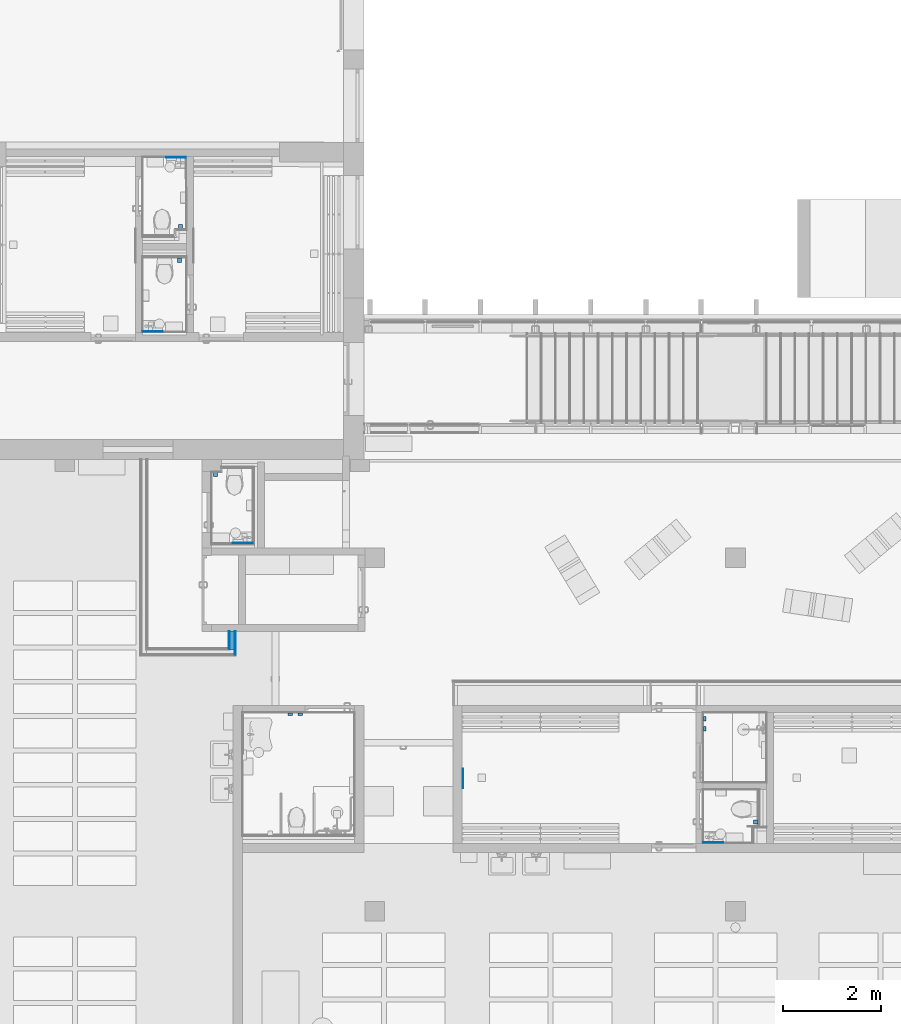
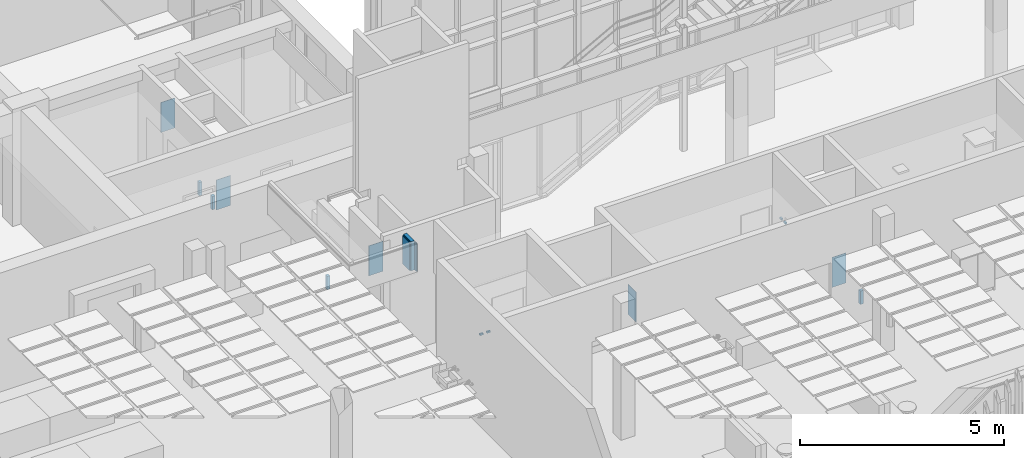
# One storey, part 216 of 301: 13 discrete accessories, 5 building element parts, 1 element without a shape of its own.
"""IFC2X3 building model written with IfcOpenShell, lengths in millimetres."""

from ifc_helpers import new_model, entity, si_unit, converted_unit, derived_unit, money_unit, direction, frame, origin_with_axes, place, context, subcontext, project, spatial, faceted_brep, material, type_object, element, aggregate, save


model = new_model("IFC2X3")

# Units and contexts
model_context = context("Model", 3, precision=0.01, world=origin_with_axes(), true_north=direction((0.0, 1.0)))
body_context = subcontext(model_context, "Body", "Model", "MODEL_VIEW")
ifc_project = project(units=[si_unit("LENGTHUNIT", "METRE", prefix="MILLI"), si_unit("AREAUNIT", "SQUARE_METRE"), si_unit("VOLUMEUNIT", "CUBIC_METRE"), converted_unit("PLANEANGLEUNIT", "DEGREE", entity("IfcPlaneAngleMeasure", 0.0174532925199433), si_unit("PLANEANGLEUNIT", "RADIAN"), dimensions=[0, 0, 0, 0, 0, 0, 0]), money_unit("EUR"), converted_unit("TIMEUNIT", "Year", entity("IfcTimeMeasure", 31557600.0), si_unit("TIMEUNIT", "SECOND"), dimensions=[0, 0, 1, 0, 0, 0, 0]), si_unit("MASSUNIT", "GRAM", prefix="KILO"), si_unit("THERMODYNAMICTEMPERATUREUNIT", "DEGREE_CELSIUS"), si_unit("LUMINOUSINTENSITYUNIT", "LUMEN"), si_unit("ENERGYUNIT", "JOULE", prefix="MEGA"), derived_unit("THERMALCONDUCTANCEUNIT", [(si_unit("POWERUNIT", "WATT"), 1), (si_unit("LENGTHUNIT", "METRE"), -1), (si_unit("THERMODYNAMICTEMPERATUREUNIT", "KELVIN"), -1)]), derived_unit("SPECIFICHEATCAPACITYUNIT", [(si_unit("ENERGYUNIT", "JOULE"), 1), (si_unit("MASSUNIT", "GRAM", prefix="KILO"), -1), (si_unit("THERMODYNAMICTEMPERATUREUNIT", "KELVIN"), -1)]), derived_unit("MASSDENSITYUNIT", [(si_unit("MASSUNIT", "GRAM", prefix="KILO"), 1), (si_unit("VOLUMEUNIT", "CUBIC_METRE"), -1)])], contexts=[model_context])

# Site, building, storey
site_placement = place(None, frame((0.0, 0.0, 8650.0), z_axis=(0.0, 0.0, 1.0), x_axis=(1.0, 0.0, 0.0)))
site = spatial("IfcSite", under=ifc_project, at=site_placement, Name="43301:001:0844", CompositionType="ELEMENT")
building_placement = place(site_placement, origin_with_axes())
building = spatial("IfcBuilding", under=site, at=building_placement, Name="Kuressaare Ametikooli tuulikute mehaanikute õppekorpus", CompositionType="ELEMENT")
storey_placement = place(building_placement, origin_with_axes())
storey = spatial("IfcBuildingStorey", under=building, at=storey_placement, Name="1.korrus", CompositionType="ELEMENT", Elevation=0.0)

# Discrete accessories
ifc_material_1 = material(Name="GENEERILINE - SISEMINE VOODER")
discrete_accessory_type_1 = type_object("IfcDiscreteAccessoryType", Name="GENEERILINE - SISEMINE VOODER 10")
discrete_accessory_1_placement = place(storey_placement, frame((105665.5117748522, 19479.54246716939, 1200.0), z_axis=(0.0, 0.0, 1.0), x_axis=(0.0, -1.0, 0.0)))
element("IfcDiscreteAccessory", 1, at=discrete_accessory_1_placement, inside=storey, type_object=discrete_accessory_type_1, material=ifc_material_1, Name="P1", context=body_context, shape_type="Brep", body=[
    faceted_brep([(0.0, 0.0, 0.0), (400.0000000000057, 0.0, 0.0), (400.0000000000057, -10.00000000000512, 0.0), (0.0, -10.00000000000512, 0.0), (0.0, 0.0, 900.0000000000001), (400.0000000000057, 0.0, 900.0000000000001), (400.0000000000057, -10.00000000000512, 900.0000000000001), (0.0, -10.00000000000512, 900.0000000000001)], [[[0, 1, 2, 3]], [[4, 5, 1, 0]], [[2, 1, 5, 6]], [[3, 2, 6, 7]], [[4, 0, 3, 7]], [[7, 6, 5, 4]]]),
])
discrete_accessory_2_placement = place(storey_placement, frame((101373.6550356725, 24086.06969685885, 1200.0), z_axis=(0.0, 0.0, 1.0), x_axis=(-0.9999999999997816, -6.608501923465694e-07, 0.0)))
element("IfcDiscreteAccessory", 2, at=discrete_accessory_2_placement, inside=storey, type_object=discrete_accessory_type_1, material=ifc_material_1, Name="P1", context=body_context, shape_type="Brep", body=[
    faceted_brep([(0.0, 0.0, 900.0000000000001), (400.0000000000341, 0.0, 900.0000000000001), (400.0000000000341, 9.99999999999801, 900.0000000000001), (0.0, 9.99999999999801, 900.0000000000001), (0.0, 0.0, 0.0), (400.0000000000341, 0.0, 0.0), (400.0000000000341, 9.99999999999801, 0.0), (0.0, 9.99999999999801, 0.0)], [[[0, 1, 2, 3]], [[4, 5, 1, 0]], [[2, 1, 5, 6]], [[3, 2, 6, 7]], [[4, 0, 3, 7]], [[7, 6, 5, 4]]]),
])
discrete_accessory_3_placement = place(storey_placement, frame((99139.5422787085, 28393.06905086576, 1200.0), z_axis=(0.0, 0.0, 1.0), x_axis=(0.9999999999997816, -6.608501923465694e-07, 0.0)))
element("IfcDiscreteAccessory", 3, at=discrete_accessory_3_placement, inside=storey, type_object=discrete_accessory_type_1, material=ifc_material_1, Name="P1", context=body_context, shape_type="Brep", body=[
    faceted_brep([(0.0, 0.0, 0.0), (400.0000000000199, 0.0, 0.0), (400.0000000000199, -10.00000000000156, 0.0), (0.0, -10.00000000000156, 0.0), (0.0, 0.0, 900.0000000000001), (400.0000000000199, 0.0, 900.0000000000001), (400.0000000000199, -10.00000000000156, 900.0000000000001), (0.0, -10.00000000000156, 900.0000000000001)], [[[0, 1, 2, 3]], [[4, 5, 1, 0]], [[2, 1, 5, 6]], [[3, 2, 6, 7]], [[4, 0, 3, 7]], [[7, 6, 5, 4]]]),
])
discrete_accessory_4_placement = place(storey_placement, frame((100015.9331995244, 31934.01051328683, 1200.0), z_axis=(0.0, 0.0, 1.0), x_axis=(-0.9999999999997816, 6.608503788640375e-07, 0.0)))
element("IfcDiscreteAccessory", 4, at=discrete_accessory_4_placement, inside=storey, type_object=discrete_accessory_type_1, material=ifc_material_1, Name="P1", context=body_context, shape_type="Brep", body=[
    faceted_brep([(0.0, 0.0, 0.0), (400.0000000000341, 0.0, 0.0), (400.0000000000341, -9.99999999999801, 0.0), (0.0, -9.99999999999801, 0.0), (0.0, 0.0, 900.0000000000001), (400.0000000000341, 0.0, 900.0000000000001), (400.0000000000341, -9.99999999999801, 900.0000000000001), (0.0, -9.99999999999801, 900.0000000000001)], [[[0, 1, 2, 3]], [[4, 5, 1, 0]], [[2, 1, 5, 6]], [[3, 2, 6, 7]], [[4, 0, 3, 7]], [[7, 6, 5, 4]]]),
])
discrete_accessory_5_placement = place(storey_placement, frame((110565.5119871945, 17974.83644387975, 1200.0), z_axis=(0.0, 0.0, 1.0), x_axis=(1.0, 0.0, 0.0)))
element("IfcDiscreteAccessory", 5, at=discrete_accessory_5_placement, inside=storey, type_object=discrete_accessory_type_1, material=ifc_material_1, Name="P1", context=body_context, shape_type="Brep", body=[
    faceted_brep([(0.0, 0.0, 0.0), (400.0000000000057, 0.0, 0.0), (400.0000000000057, -10.00000000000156, 0.0), (0.0, -10.00000000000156, 0.0), (0.0, 0.0, 900.0000000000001), (400.0000000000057, 0.0, 900.0000000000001), (400.0000000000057, -10.00000000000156, 900.0000000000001), (0.0, -10.00000000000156, 900.0000000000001)], [[[0, 1, 2, 3]], [[4, 5, 1, 0]], [[2, 1, 5, 6]], [[3, 2, 6, 7]], [[4, 0, 3, 7]], [[7, 6, 5, 4]]]),
])
ifc_material_2 = material(Name="GENEERILINE - KONSTRUKTRIOON")
discrete_accessory_type_2 = type_object("IfcDiscreteAccessoryType", Name="GENEERILINE - KONSTRUKTRIOON 400")
discrete_accessory_6_placement = place(storey_placement, frame((100656.4859065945, 25434.0597091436, 99.99999999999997), z_axis=(0.0, 0.0, 1.0), x_axis=(1.0, 0.0, 0.0)))
element("IfcDiscreteAccessory", 6, at=discrete_accessory_6_placement, inside=storey, type_object=discrete_accessory_type_2, material=ifc_material_2, Name="WCH", context=body_context, shape_type="Brep", body=[
    faceted_brep([(0.0, 0.0, 400.0), (0.0, 0.0, 0.0), (0.0, 88.99999999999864, 0.0), (0.0, 88.99999999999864, 400.0), (-81.00000000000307, 0.0, 400.0), (-81.00000000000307, 0.0, 0.0), (-81.00000000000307, 88.99999999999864, 0.0), (-81.00000000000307, 88.99999999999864, 400.0)], [[[0, 1, 2, 3]], [[4, 5, 1, 0]], [[2, 1, 5, 6]], [[3, 2, 6, 7]], [[4, 0, 3, 7]], [[7, 6, 5, 4]]]),
])
discrete_accessory_7_placement = place(storey_placement, frame((99845.56404096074, 29799.4815169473, 99.99999999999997), z_axis=(0.0, 0.0, 1.0), x_axis=(1.0, 0.0, 0.0)))
element("IfcDiscreteAccessory", 7, at=discrete_accessory_7_placement, inside=storey, type_object=discrete_accessory_type_2, material=ifc_material_2, Name="WCH", context=body_context, shape_type="Brep", body=[
    faceted_brep([(0.0, 0.0, 400.0), (0.0, 0.0, 0.0), (81.00000000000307, 0.0, 0.0), (81.00000000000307, 0.0, 400.0), (0.0, 88.99999999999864, 400.0), (0.0, 88.99999999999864, 0.0), (81.00000000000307, 88.99999999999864, 0.0), (81.00000000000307, 88.99999999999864, 400.0)], [[[0, 1, 2, 3]], [[4, 5, 1, 0]], [[2, 1, 5, 6]], [[3, 2, 6, 7]], [[4, 0, 3, 7]], [[7, 6, 5, 4]]]),
])
discrete_accessory_8_placement = place(storey_placement, frame((99944.20629326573, 30566.97406825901, 99.99999999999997), z_axis=(0.0, 0.0, 1.0), x_axis=(1.0, 0.0, 0.0)))
element("IfcDiscreteAccessory", 8, at=discrete_accessory_8_placement, inside=storey, type_object=discrete_accessory_type_2, material=ifc_material_2, Name="WCH", context=body_context, shape_type="Brep", body=[
    faceted_brep([(0.0, 0.0, 400.0), (0.0, 0.0, 0.0), (-81.00000000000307, 0.0, 0.0), (-81.00000000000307, 0.0, 400.0), (0.0, -88.99999999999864, 400.0), (0.0, -88.99999999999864, 0.0), (-81.00000000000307, -88.99999999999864, 0.0), (-81.00000000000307, -88.99999999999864, 400.0)], [[[0, 1, 2, 3]], [[4, 5, 1, 0]], [[2, 1, 5, 6]], [[3, 2, 6, 7]], [[4, 0, 3, 7]], [[7, 6, 5, 4]]]),
])
discrete_accessory_9_placement = place(storey_placement, frame((111586.5125273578, 18346.7650137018, 99.99999999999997), z_axis=(0.0, 0.0, 1.0), x_axis=(1.0, 0.0, 0.0)))
element("IfcDiscreteAccessory", 9, at=discrete_accessory_9_placement, inside=storey, type_object=discrete_accessory_type_2, material=ifc_material_2, Name="WCH", context=body_context, shape_type="Brep", body=[
    faceted_brep([(0.0, 0.0, 400.0), (0.0, 0.0, 0.0), (88.99999999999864, 0.0, 0.0), (88.99999999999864, 0.0, 400.0), (0.0, 80.99999999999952, 400.0), (0.0, 80.99999999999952, 0.0), (88.99999999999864, 80.99999999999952, 0.0), (88.99999999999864, 80.99999999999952, 400.0)], [[[0, 1, 2, 3]], [[4, 5, 1, 0]], [[2, 1, 5, 6]], [[3, 2, 6, 7]], [[4, 0, 3, 7]], [[7, 6, 5, 4]]]),
])
discrete_accessory_type_3 = type_object("IfcDiscreteAccessoryType", Name="GENEERILINE - KONSTRUKTRIOON 50")
for number, where, z_axis, x_axis, name in (
    (10, (102388.8704471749, 20566.20723176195, 1140.0), (0.0, 0.0, 1.0), (1.0, 0.0, 0.0), "N1"),
    (11, (102188.8704471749, 20566.20723176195, 1140.0), (0.0, 0.0, 1.0), (1.0, 0.0, 0.0), "N1"),
):
    element("IfcDiscreteAccessory", number, at=place(storey_placement, frame(where, z_axis=z_axis, x_axis=x_axis)), inside=storey, type_object=discrete_accessory_type_3, material=ifc_material_2, Name=name, context=body_context, shape_type="Brep", body=[
        faceted_brep([(0.0, 0.0, 50.00000000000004), (0.0, 0.0, 0.0), (0.0, 49.99999999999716, 0.0), (0.0, 49.99999999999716, 50.00000000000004), (-89.9999999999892, 0.0, 50.00000000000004), (-89.9999999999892, 0.0, 0.0), (-89.9999999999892, 49.99999999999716, 0.0), (-89.9999999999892, 49.99999999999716, 50.00000000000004)], [[[0, 1, 2, 3]], [[4, 5, 1, 0]], [[2, 1, 5, 6]], [[3, 2, 6, 7]], [[4, 0, 3, 7]], [[7, 6, 5, 4]]]),
    ])
for number, where, z_axis, x_axis, name in (
    (12, (110565.511991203, 20248.96967331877, 1700.0), (0.0, 0.0, 1.0), (1.0, 0.0, 0.0), "N1"),
    (13, (110565.511991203, 20448.96967331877, 1700.0), (0.0, 0.0, 1.0), (1.0, 0.0, 0.0), "N1"),
):
    element("IfcDiscreteAccessory", number, at=place(storey_placement, frame(where, z_axis=z_axis, x_axis=x_axis)), inside=storey, type_object=discrete_accessory_type_3, material=ifc_material_2, Name=name, context=body_context, shape_type="Brep", body=[
        faceted_brep([(0.0, 0.0, 50.00000000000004), (0.0, 0.0, 0.0), (49.99999999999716, 0.0, 0.0), (49.99999999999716, 0.0, 50.00000000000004), (0.0, 89.99999999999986, 50.00000000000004), (0.0, 89.99999999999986, 0.0), (49.99999999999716, 89.99999999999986, 0.0), (49.99999999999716, 89.99999999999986, 50.00000000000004)], [[[0, 1, 2, 3]], [[4, 5, 1, 0]], [[2, 1, 5, 6]], [[3, 2, 6, 7]], [[4, 0, 3, 7]], [[7, 6, 5, 4]]]),
    ])

# Wall, building element parts
wall_type = type_object("IfcWallType", Name="SS-2.1 147", PredefinedType="NOTDEFINED")
wall_placement = place(storey_placement, frame((100885.5456471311, 21782.13829165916, 2640.0), z_axis=(0.0, 0.0, 1.0), x_axis=(0.0001147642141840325, 0.9999999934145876, 0.0)))
wall = element("IfcWall", 14, at=wall_placement, inside=storey, type_object=wall_type, Name="Sisesein")
ifc_material_3 = material(Name="Kipsplaat")
building_element_part_1_placement = place(wall_placement, origin_with_axes())
building_element_part_1 = element("IfcBuildingElementPart", 15, at=building_element_part_1_placement, material=ifc_material_3, Name="Kipsplaat", context=body_context, shape_type="Brep", body=[
    faceted_brep([(147.0014929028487, -12.99999999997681, 49.99999999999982), (492.9613892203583, -13.00000000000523, 49.99999999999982), (492.9613891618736, -13.00000000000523, 889.9999999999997), (147.0014929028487, -12.99999999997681, 889.9999999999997), (492.9613892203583, 0.0, 49.99999999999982), (147.0000009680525, 0.0, 49.99999999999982), (492.9613891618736, 0.0, 889.9999999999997), (147.0000009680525, 0.0, 889.9999999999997)], [[[0, 1, 2, 3]], [[4, 1, 0, 5]], [[1, 4, 6, 2]], [[3, 2, 6, 7]], [[5, 0, 3, 7]], [[4, 5, 7, 6]]]),
])
building_element_part_2_placement = place(wall_placement, origin_with_axes())
building_element_part_2 = element("IfcBuildingElementPart", 16, at=building_element_part_2_placement, material=ifc_material_3, Name="Kipsplaat", context=body_context, shape_type="Brep", body=[
    faceted_brep([(134.002984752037, -25.99999999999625, 49.99999999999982), (492.9613892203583, -25.99999999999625, 49.99999999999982), (492.9613891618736, -25.99999999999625, 904.9999999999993), (134.002984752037, -25.99999999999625, 904.9999999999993), (492.9613892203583, -13.00000000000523, 49.99999999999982), (134.0014928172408, -12.99999999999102, 49.99999999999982), (492.9613891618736, -13.00000000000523, 904.9999999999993), (134.0014928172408, -12.99999999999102, 904.9999999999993)], [[[0, 1, 2, 3]], [[4, 1, 0, 5]], [[1, 4, 6, 2]], [[3, 2, 6, 7]], [[5, 0, 3, 7]], [[4, 5, 7, 6]]]),
])
ifc_material_4 = material(Name="Soojustus - Mineraalvill pehme")
building_element_part_3_placement = place(wall_placement, origin_with_axes())
building_element_part_3 = element("IfcBuildingElementPart", 17, at=building_element_part_3_placement, material=ifc_material_4, Name="Soojustus - Mineraalvill pehme", context=body_context, shape_type="Brep", body=[
    faceted_brep([(121.0138872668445, -121.0000000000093, 49.99999999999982), (492.9613892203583, -120.9999999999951, 49.99999999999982), (492.9613891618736, -120.9999999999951, 924.9999999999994), (121.0138872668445, -121.0000000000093, 924.9999999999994), (492.9613892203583, -25.99999999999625, 49.99999999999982), (121.002984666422, -25.99999999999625, 49.99999999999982), (492.9613891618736, -25.99999999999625, 924.9999999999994), (121.002984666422, -25.99999999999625, 924.9999999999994)], [[[0, 1, 2, 3]], [[4, 1, 0, 5]], [[1, 4, 6, 2]], [[2, 6, 7, 3]], [[5, 0, 3, 7]], [[4, 5, 7, 6]]]),
])
building_element_part_4_placement = place(wall_placement, origin_with_axes())
building_element_part_4 = element("IfcBuildingElementPart", 18, at=building_element_part_4_placement, material=ifc_material_3, Name="Kipsplaat", context=body_context, shape_type="Brep", body=[
    faceted_brep([(26.01537857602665, -134.0000000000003, 49.99999999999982), (492.9613892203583, -134.0000000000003, 49.99999999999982), (492.9613891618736, -134.0000000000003, 904.9999999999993), (26.01537857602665, -134.0000000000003, 904.9999999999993), (492.9613892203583, -121.0000000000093, 49.99999999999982), (26.0138866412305, -120.9999999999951, 49.99999999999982), (492.9613891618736, -120.9999999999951, 904.9999999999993), (26.0138866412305, -120.9999999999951, 904.9999999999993)], [[[0, 1, 2, 3]], [[4, 1, 0, 5]], [[1, 4, 6, 2]], [[3, 2, 6, 7]], [[5, 0, 3, 7]], [[4, 5, 7, 6]]]),
])
building_element_part_5_placement = place(wall_placement, origin_with_axes())
building_element_part_5 = element("IfcBuildingElementPart", 19, at=building_element_part_5_placement, material=ifc_material_3, Name="Kipsplaat", context=body_context, shape_type="Brep", body=[
    faceted_brep([(13.01687042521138, -147.0000000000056, 49.99999999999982), (492.9613892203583, -147.0005096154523, 49.99999999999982), (492.9613891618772, -146.9999999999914, 889.9999999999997), (13.01687042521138, -147.0000000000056, 889.9999999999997), (492.9613892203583, -134.0000000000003, 49.99999999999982), (13.01537849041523, -134.0000000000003, 49.99999999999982), (492.9613891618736, -134.0000000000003, 889.9999999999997), (13.01537849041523, -134.0000000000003, 889.9999999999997)], [[[0, 1, 2, 3]], [[4, 1, 0, 5]], [[1, 4, 6, 2]], [[3, 2, 6, 7]], [[5, 0, 3, 7]], [[4, 5, 7, 6]]]),
])
aggregate(wall, [building_element_part_1, building_element_part_2, building_element_part_3, building_element_part_4, building_element_part_5])

save(model, "model.ifc")
